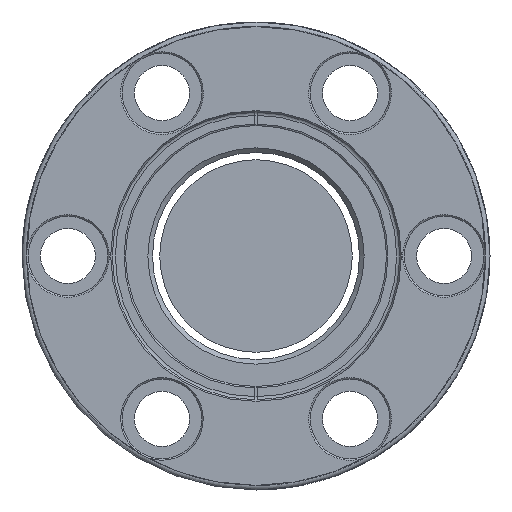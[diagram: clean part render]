
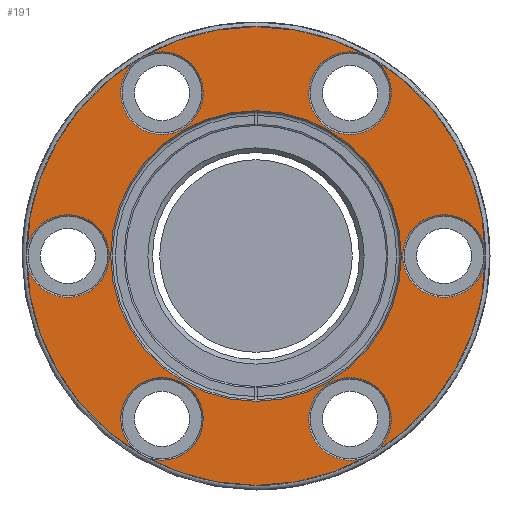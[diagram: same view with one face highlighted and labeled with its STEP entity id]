
A CAD part, front view. The second image highlights one B-rep face of the part: STEP entity #191.
In plain terms, the highlighted planar face has unit normal (0, 1, 0).
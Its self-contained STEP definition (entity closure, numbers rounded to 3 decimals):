
#139=PLANE('',#1009);
#191=ADVANCED_FACE('',(#286,#287,#288,#289,#290,#291,#292,#293),#139,.F.);
#286=FACE_BOUND('',#420,.T.);
#287=FACE_BOUND('',#421,.T.);
#288=FACE_BOUND('',#422,.T.);
#289=FACE_BOUND('',#423,.T.);
#290=FACE_BOUND('',#424,.T.);
#291=FACE_BOUND('',#425,.T.);
#292=FACE_BOUND('',#426,.T.);
#293=FACE_BOUND('',#427,.T.);
#420=EDGE_LOOP('',(#590));
#421=EDGE_LOOP('',(#591));
#422=EDGE_LOOP('',(#592));
#423=EDGE_LOOP('',(#593));
#424=EDGE_LOOP('',(#594));
#425=EDGE_LOOP('',(#595));
#426=EDGE_LOOP('',(#596));
#427=EDGE_LOOP('',(#597));
#590=ORIENTED_EDGE('',*,*,#819,.T.);
#591=ORIENTED_EDGE('',*,*,#820,.T.);
#592=ORIENTED_EDGE('',*,*,#821,.T.);
#593=ORIENTED_EDGE('',*,*,#822,.T.);
#594=ORIENTED_EDGE('',*,*,#823,.T.);
#595=ORIENTED_EDGE('',*,*,#824,.T.);
#596=ORIENTED_EDGE('',*,*,#825,.T.);
#597=ORIENTED_EDGE('',*,*,#826,.T.);
#732=VERTEX_POINT('',#1513);
#733=VERTEX_POINT('',#1515);
#734=VERTEX_POINT('',#1517);
#735=VERTEX_POINT('',#1519);
#736=VERTEX_POINT('',#1521);
#737=VERTEX_POINT('',#1523);
#738=VERTEX_POINT('',#1525);
#739=VERTEX_POINT('',#1527);
#819=EDGE_CURVE('',#732,#732,#896,.T.);
#820=EDGE_CURVE('',#733,#733,#897,.T.);
#821=EDGE_CURVE('',#734,#734,#898,.T.);
#822=EDGE_CURVE('',#735,#735,#899,.T.);
#823=EDGE_CURVE('',#736,#736,#900,.T.);
#824=EDGE_CURVE('',#737,#737,#901,.T.);
#825=EDGE_CURVE('',#738,#738,#902,.T.);
#826=EDGE_CURVE('',#739,#739,#903,.T.);
#896=CIRCLE('',#1001,10.);
#897=CIRCLE('',#1002,10.);
#898=CIRCLE('',#1003,10.);
#899=CIRCLE('',#1004,10.);
#900=CIRCLE('',#1005,10.);
#901=CIRCLE('',#1006,10.);
#902=CIRCLE('',#1007,75.);
#903=CIRCLE('',#1008,47.5);
#1001=AXIS2_PLACEMENT_3D('',#1512,#1218,#1219);
#1002=AXIS2_PLACEMENT_3D('',#1514,#1220,#1221);
#1003=AXIS2_PLACEMENT_3D('',#1516,#1222,#1223);
#1004=AXIS2_PLACEMENT_3D('',#1518,#1224,#1225);
#1005=AXIS2_PLACEMENT_3D('',#1520,#1226,#1227);
#1006=AXIS2_PLACEMENT_3D('',#1522,#1228,#1229);
#1007=AXIS2_PLACEMENT_3D('',#1524,#1230,#1231);
#1008=AXIS2_PLACEMENT_3D('',#1526,#1232,#1233);
#1009=AXIS2_PLACEMENT_3D('',#1528,#1234,#1235);
#1218=DIRECTION('',(0.,-1.,0.));
#1219=DIRECTION('',(0.,0.,-1.));
#1220=DIRECTION('',(0.,-1.,0.));
#1221=DIRECTION('',(0.,0.,-1.));
#1222=DIRECTION('',(0.,-1.,0.));
#1223=DIRECTION('',(0.,0.,-1.));
#1224=DIRECTION('',(0.,-1.,0.));
#1225=DIRECTION('',(0.,0.,-1.));
#1226=DIRECTION('',(0.,-1.,0.));
#1227=DIRECTION('',(0.,0.,-1.));
#1228=DIRECTION('',(0.,-1.,0.));
#1229=DIRECTION('',(0.,0.,-1.));
#1230=DIRECTION('',(0.,1.,0.));
#1231=DIRECTION('',(0.,0.,-1.));
#1232=DIRECTION('',(0.,-1.,0.));
#1233=DIRECTION('',(0.,0.,-1.));
#1234=DIRECTION('',(0.,-1.,0.));
#1235=DIRECTION('',(0.,0.,-1.));
#1512=CARTESIAN_POINT('',(-30.75,25.,-53.261));
#1513=CARTESIAN_POINT('',(-30.75,25.,-63.261));
#1514=CARTESIAN_POINT('',(30.75,25.,-53.261));
#1515=CARTESIAN_POINT('',(30.75,25.,-63.261));
#1516=CARTESIAN_POINT('',(30.75,25.,53.261));
#1517=CARTESIAN_POINT('',(30.75,25.,43.261));
#1518=CARTESIAN_POINT('',(-61.5,25.,0.));
#1519=CARTESIAN_POINT('',(-61.5,25.,-10.));
#1520=CARTESIAN_POINT('',(61.5,25.,0.));
#1521=CARTESIAN_POINT('',(61.5,25.,-10.));
#1522=CARTESIAN_POINT('',(-30.75,25.,53.261));
#1523=CARTESIAN_POINT('',(-30.75,25.,43.261));
#1524=CARTESIAN_POINT('',(0.,25.,0.));
#1525=CARTESIAN_POINT('',(0.,25.,-75.));
#1526=CARTESIAN_POINT('',(0.,25.,0.));
#1527=CARTESIAN_POINT('',(0.,25.,-47.5));
#1528=CARTESIAN_POINT('',(0.,25.,0.));
